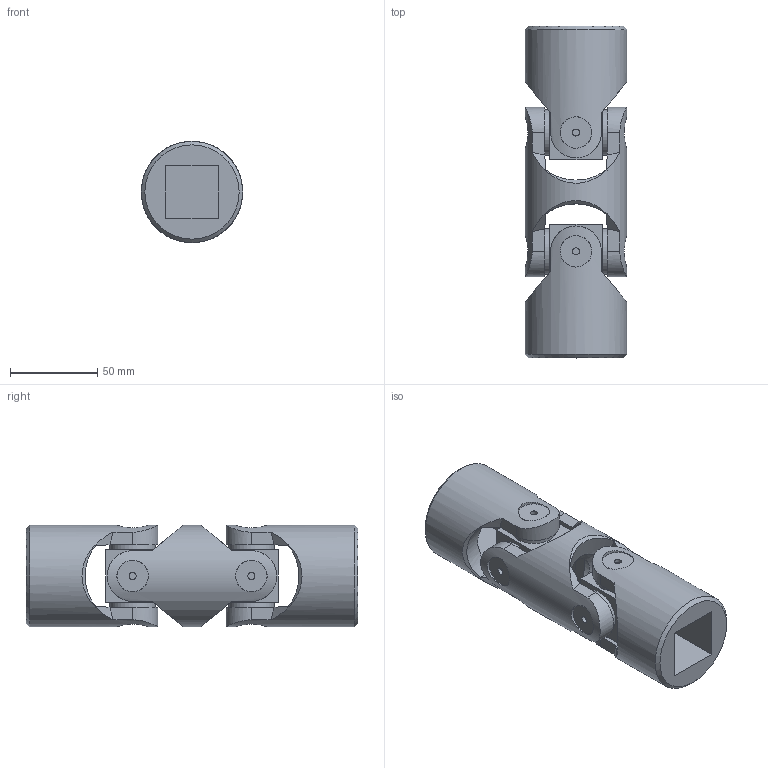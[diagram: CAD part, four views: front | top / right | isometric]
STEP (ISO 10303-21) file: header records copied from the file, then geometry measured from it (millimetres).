
FILE_DESCRIPTION(/* description */ (''),/* implementation_level */ '2;1');
FILE_NAME(/* name */ '\\SRV2016\Societa\Stefano\Disegni 3D\00Catalogo 3D\02Doppi GD-GBD\SG0D302Q.stp',/* time_stamp */ '2021-11-23T15:52:07+01:00',/* author */ ('acquisti'),/* organization */ (''),/* preprocessor_version */ 'ST-DEVELOPER v15.6',/* originating_system */ 'Autodesk Inventor 2015',/* authorisation */ '');
FILE_SCHEMA (('AUTOMOTIVE_DESIGN { 1 0 10303 214 3 1 1 }'));
Length unit declared in the file: millimetre
Products named in the file (4): 6G MOD; 6G SFE; 6G MOQ; Ø58_6GD-00_SG0D3000
Assembly tree (5 placements, depth 2):
  Ø58_6GD-00_SG0D3000
    6G MOD
    6G SFE  x2
    6G MOQ  x2
Bounding box: 58 x 190 x 58 mm (x, y, z)
Volume: 307960.6 mm3; surface area: 72141.9 mm2
Topology: 5 solids, 5 shells, 155 faces, 387 edges, 262 vertices
Faces by surface type: plane 78, cylinder 45, cone 28, torus 4
Full cylindrical faces by diameter (mm): 4 x8, 18 x8, 26 x8, 32 x2, 58 x3
Entity records: 3674 total; most frequent: CARTESIAN_POINT 1331, ORIENTED_EDGE 464, DIRECTION 438, EDGE_CURVE 232, AXIS2_PLACEMENT_3D 187, VERTEX_POINT 174, EDGE_LOOP 146, FACE_OUTER_BOUND 103
